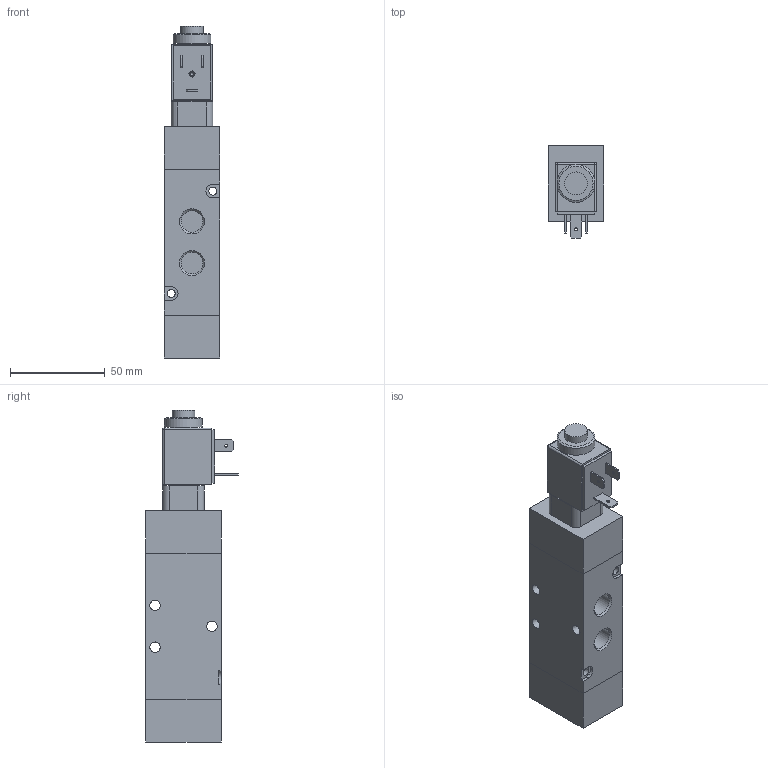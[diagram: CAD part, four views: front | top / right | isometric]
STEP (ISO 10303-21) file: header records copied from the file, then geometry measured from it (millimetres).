
FILE_DESCRIPTION(/* description */ (''),/* implementation_level */ '2;1');
FILE_NAME(/* name */ 'I:\Area Tecnica\Disegni\VARIE-3D\Componenti\T400\T424\T424_52_0_1_B#.stp',/* time_stamp */ '2015-09-23T13:50:38+02:00',/* author */ ('maniean1'),/* organization */ ('Pneumax S.p.A.'),/* preprocessor_version */ 'ST-DEVELOPER v15.2',/* originating_system */ 'Autodesk Inventor 2014',/* authorisation */ '');
FILE_SCHEMA (('AUTOMOTIVE_DESIGN { 1 0 10303 214 3 1 1 }'));
Length unit declared in the file: millimetre
Products named in the file (3): T424_52_0_1_M2; MB; T424_52_0_1_B#
Bounding box: 29.5 x 49 x 175 mm (x, y, z)
Volume: 162115.5 mm3; surface area: 36725.7 mm2
Topology: 5 solids, 5 shells, 125 faces, 275 edges, 178 vertices
Faces by surface type: plane 78, cylinder 37, cone 8, sphere 2
Full cylindrical faces by diameter (mm): 1.5 x2, 1.6 x1, 2.156 x1, 4.25 x2, 5.5 x3, 7.4 x1, 8 x1, 8.2 x2, 9.8 x1, 10.1 x1, 10.2 x1, 11.445 x5, 12 x1, 13 x1, 13.5 x1, 16.2 x1, 20 x1
Entity records: 3424 total; most frequent: DIRECTION 577, CARTESIAN_POINT 541, ORIENTED_EDGE 472, EDGE_CURVE 236, AXIS2_PLACEMENT_3D 211, EDGE_LOOP 197, VERTEX_POINT 175, LINE 155
